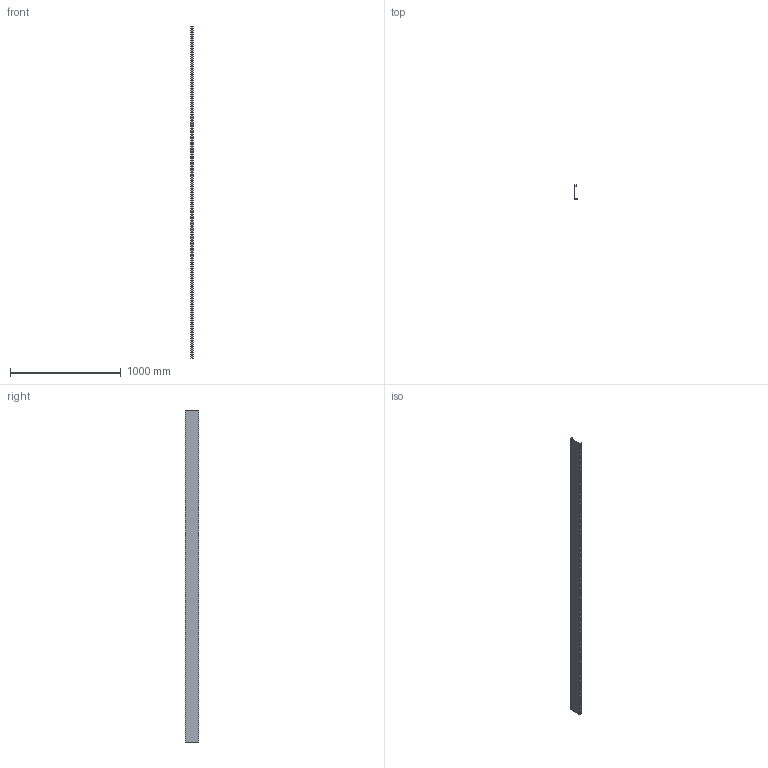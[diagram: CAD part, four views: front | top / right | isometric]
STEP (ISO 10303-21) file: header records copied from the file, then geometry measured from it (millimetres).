
FILE_DESCRIPTION (( 'STEP AP214' ), '1' );
FILE_NAME ('50J3E.step', '2025-02-21T14:45:27', ( '' ), ( '' ), 'SwSTEP 2.0', 'SolidWorks 2023', '' );
FILE_SCHEMA (( 'AUTOMOTIVE_DESIGN' ));
Length unit declared in the file: millimetre
Products named in the file (1): 50J3E
Bounding box: 27 x 123 x 3000 mm (x, y, z)
Volume: 1275300 mm3; surface area: 983883 mm2
Topology: 1 solids, 1 shells, 298 faces, 888 edges, 592 vertices
Faces by surface type: plane 298
Entity records: 10103 total; most frequent: CARTESIAN_POINT 1779, ORIENTED_EDGE 1776, DIRECTION 1486, EDGE_CURVE 888, LINE 888, VECTOR 888, VERTEX_POINT 592, EDGE_LOOP 442
